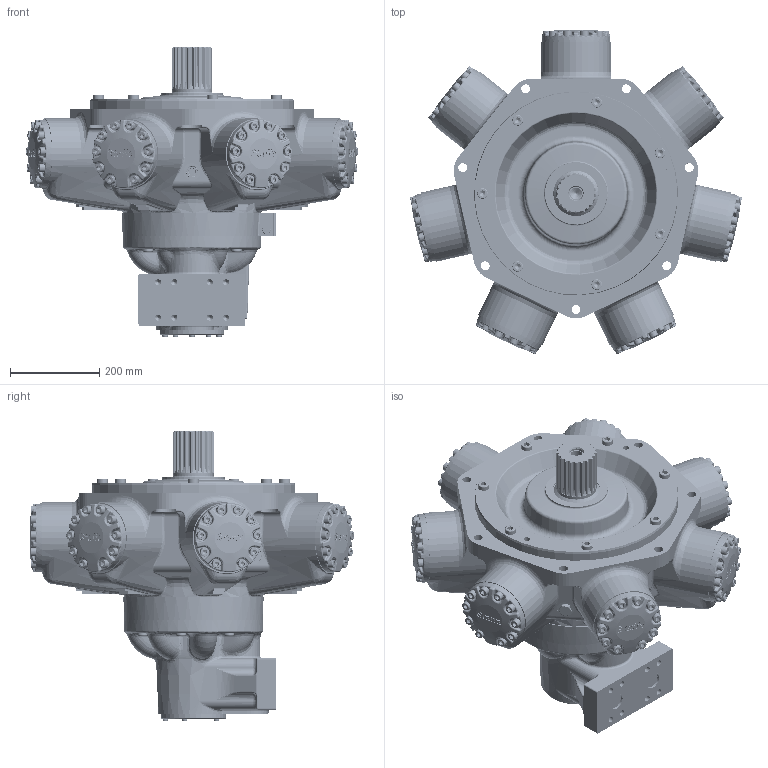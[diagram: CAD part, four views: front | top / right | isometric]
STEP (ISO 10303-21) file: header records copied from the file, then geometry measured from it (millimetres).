
FILE_DESCRIPTION(/* description */ (''),/* implementation_level */ '2;1');
FILE_NAME(/* name */ 'HMC325_Z3_SFM4_C.stp',/* time_stamp */ '2025-06-12T15:33:25+01:00',/* author */ ('ccallanga'),/* organization */ (''),/* preprocessor_version */ 'ST-DEVELOPER v20',/* originating_system */ 'Autodesk Inventor 2024',/* authorisation */ '');
FILE_SCHEMA (('AUTOMOTIVE_DESIGN { 1 0 10303 214 3 1 1 }'));
Products named in the file (1): 017753 HMC325 Web Assembly_Simplify_1
Bounding box: 744.35 x 728.18 x 648.79 mm (x, y, z)
Volume: 75864194.4 mm3; surface area: 1767444.2 mm2
Topology: 1 solids, 1 shells, 6225 faces, 15135 edges, 8945 vertices
Faces by surface type: bspline 2360, plane 1687, cylinder 1311, torus 523, cone 182, sphere 162
Full cylindrical faces by diameter (mm): 4 x1, 4.134 x4, 5 x4, 5.5 x4, 6.05 x2, 11.913 x5, 12.7 x5, 13.835 x8, 14.351 x2, 16.51 x1, 19 x1, 19.05 x70, 20 x7, 20.637 x70, 23.825 x14, 25 x1, 25.4 x14, 26.211 x1, 26.92 x2, 30.48 x1, 38 x2, 38.1 x3, 90 x1, 101.575 x1, 106.68 x1, 139.7 x1, 146.05 x1, 311 x1, 311.15 x1, 457.11 x1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
Entity records: 279600 total; most frequent: CARTESIAN_POINT 145662, ORIENTED_EDGE 29700, DIRECTION 21347, EDGE_CURVE 14850, VERTEX_POINT 8945, AXIS2_PLACEMENT_3D 8319, EDGE_LOOP 6557, STYLED_ITEM 6226
